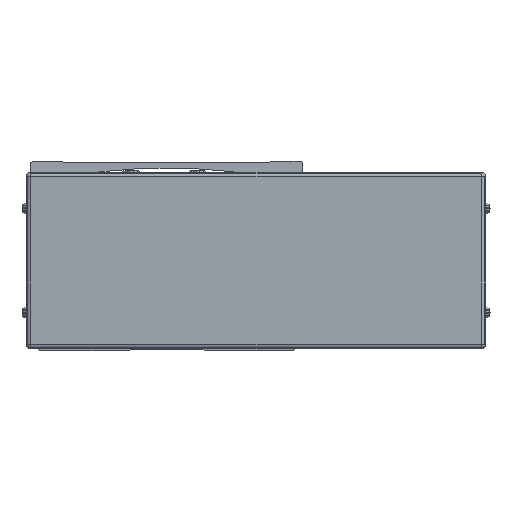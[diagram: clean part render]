
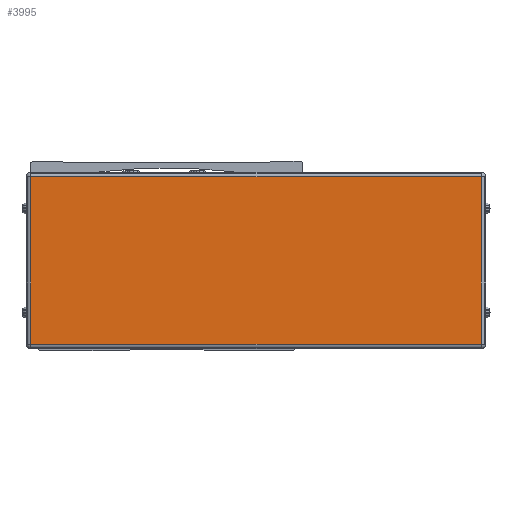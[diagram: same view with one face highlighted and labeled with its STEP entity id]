
A CAD part, front view. The second image highlights one B-rep face of the part: STEP entity #3995.
In plain terms, the highlighted planar face has unit normal (0, -1, 0).
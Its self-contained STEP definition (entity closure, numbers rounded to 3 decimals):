
#3995=ADVANCED_FACE('',(#9828),#9829,.T.);
#9828=FACE_OUTER_BOUND('',#18309,.T.);
#9829=PLANE('',#18310);
#18309=EDGE_LOOP('',(#30663,#30664,#30665,#30666));
#18310=AXIS2_PLACEMENT_3D('',#30667,#30668,#30669);
#30663=ORIENTED_EDGE('',*,*,#52179,.F.);
#30664=ORIENTED_EDGE('',*,*,#52180,.F.);
#30665=ORIENTED_EDGE('',*,*,#51772,.F.);
#30666=ORIENTED_EDGE('',*,*,#52181,.F.);
#30667=CARTESIAN_POINT('',(-259.5,-513.778,-8.));
#30668=DIRECTION('',(0.,-1.0,0.));
#30669=DIRECTION('',(1.0,0.,0.));
#51772=EDGE_CURVE('',#62887,#62889,#62890,.T.);
#52179=EDGE_CURVE('',#63557,#63300,#63558,.T.);
#52180=EDGE_CURVE('',#62889,#63557,#63559,.T.);
#52181=EDGE_CURVE('',#63300,#62887,#63560,.T.);
#62887=VERTEX_POINT('',#78465);
#62889=VERTEX_POINT('',#78467);
#62890=LINE('',#78468,#78469);
#63300=VERTEX_POINT('',#79078);
#63557=VERTEX_POINT('',#79424);
#63558=LINE('',#79425,#79426);
#63559=LINE('',#79427,#79428);
#63560=LINE('',#79429,#79430);
#78465=CARTESIAN_POINT('',(-361.7,-513.778,-46.));
#78467=CARTESIAN_POINT('',(-361.7,-513.778,30.));
#78468=CARTESIAN_POINT('',(-361.7,-513.778,-8.));
#78469=VECTOR('',#94770,10.0);
#79078=CARTESIAN_POINT('',(-157.3,-513.778,-46.));
#79424=CARTESIAN_POINT('',(-157.3,-513.778,30.));
#79425=CARTESIAN_POINT('',(-157.3,-513.778,-8.));
#79426=VECTOR('',#95254,10.0);
#79427=CARTESIAN_POINT('',(-259.5,-513.778,30.));
#79428=VECTOR('',#95255,10.0);
#79429=CARTESIAN_POINT('',(-259.5,-513.778,-46.));
#79430=VECTOR('',#95256,10.0);
#94770=DIRECTION('',(0.0,0.,1.0));
#95254=DIRECTION('',(0.0,0.,-1.0));
#95255=DIRECTION('',(1.0,0.,0.));
#95256=DIRECTION('',(-1.0,0.,0.));
